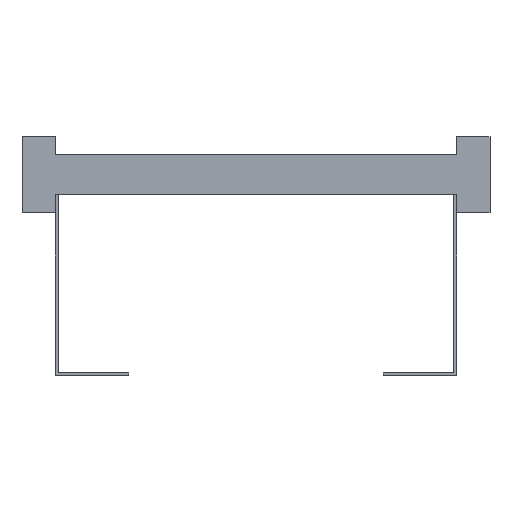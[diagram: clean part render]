
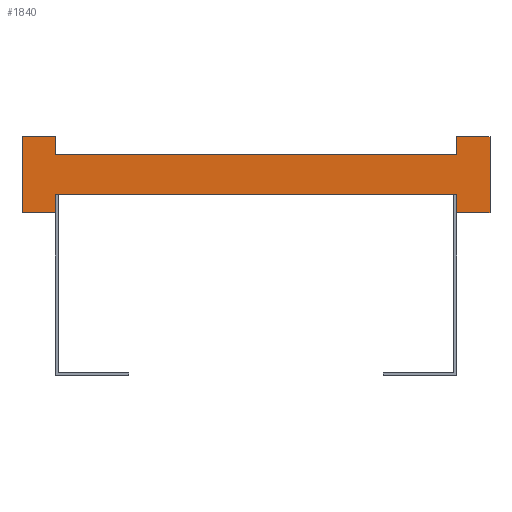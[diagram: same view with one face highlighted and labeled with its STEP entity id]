
A CAD part, front view. The second image highlights one B-rep face of the part: STEP entity #1840.
In plain terms, the highlighted planar face has unit normal (0, -1, 0).
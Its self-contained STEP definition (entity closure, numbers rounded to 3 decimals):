
#113=DIRECTION('',(0.,0.,1.));
#114=VECTOR('',#113,13.5);
#115=CARTESIAN_POINT('',(150.,0.,-28.5));
#116=LINE('',#115,#114);
#117=DIRECTION('',(0.,0.,-1.));
#118=VECTOR('',#117,13.5);
#119=CARTESIAN_POINT('',(-150.,0.,-15.));
#120=LINE('',#119,#118);
#121=DIRECTION('',(-1.,0.,0.));
#122=VECTOR('',#121,25.);
#123=CARTESIAN_POINT('',(-150.,0.,-28.5));
#124=LINE('',#123,#122);
#125=DIRECTION('',(0.,0.,1.));
#126=VECTOR('',#125,57.);
#127=CARTESIAN_POINT('',(-175.,0.,-28.5));
#128=LINE('',#127,#126);
#129=DIRECTION('',(1.,0.,0.));
#130=VECTOR('',#129,25.);
#131=CARTESIAN_POINT('',(-175.,0.,28.5));
#132=LINE('',#131,#130);
#133=DIRECTION('',(0.,0.,-1.));
#134=VECTOR('',#133,13.5);
#135=CARTESIAN_POINT('',(-150.,0.,28.5));
#136=LINE('',#135,#134);
#137=DIRECTION('',(0.,0.,1.));
#138=VECTOR('',#137,13.5);
#139=CARTESIAN_POINT('',(150.,0.,15.));
#140=LINE('',#139,#138);
#141=DIRECTION('',(1.,0.,0.));
#142=VECTOR('',#141,25.);
#143=CARTESIAN_POINT('',(150.,0.,28.5));
#144=LINE('',#143,#142);
#145=DIRECTION('',(0.,0.,-1.));
#146=VECTOR('',#145,57.);
#147=CARTESIAN_POINT('',(175.,0.,28.5));
#148=LINE('',#147,#146);
#149=DIRECTION('',(-1.,0.,0.));
#150=VECTOR('',#149,25.);
#151=CARTESIAN_POINT('',(175.,0.,-28.5));
#152=LINE('',#151,#150);
#1377=DIRECTION('',(1.,0.,0.));
#1378=VECTOR('',#1377,300.);
#1379=CARTESIAN_POINT('',(-150.,0.,-15.));
#1380=LINE('',#1379,#1378);
#1389=DIRECTION('',(1.,0.,0.));
#1390=VECTOR('',#1389,300.);
#1391=CARTESIAN_POINT('',(-150.,0.,15.));
#1392=LINE('',#1391,#1390);
#1393=CARTESIAN_POINT('',(-175.,0.,28.5));
#1394=CARTESIAN_POINT('',(-150.,0.,28.5));
#1395=VERTEX_POINT('',#1393);
#1396=VERTEX_POINT('',#1394);
#1397=CARTESIAN_POINT('',(-150.,0.,-28.5));
#1398=CARTESIAN_POINT('',(-175.,0.,-28.5));
#1399=VERTEX_POINT('',#1397);
#1400=VERTEX_POINT('',#1398);
#1401=CARTESIAN_POINT('',(175.,0.,28.5));
#1402=CARTESIAN_POINT('',(175.,0.,-28.5));
#1403=VERTEX_POINT('',#1401);
#1404=VERTEX_POINT('',#1402);
#1405=CARTESIAN_POINT('',(150.,0.,-28.5));
#1406=VERTEX_POINT('',#1405);
#1407=CARTESIAN_POINT('',(150.,0.,28.5));
#1408=VERTEX_POINT('',#1407);
#1425=CARTESIAN_POINT('',(-150.,0.,-15.));
#1427=VERTEX_POINT('',#1425);
#1429=CARTESIAN_POINT('',(-150.,0.,15.));
#1431=VERTEX_POINT('',#1429);
#1433=CARTESIAN_POINT('',(150.,0.,-15.));
#1435=VERTEX_POINT('',#1433);
#1437=CARTESIAN_POINT('',(150.,0.,15.));
#1439=VERTEX_POINT('',#1437);
#1809=CARTESIAN_POINT('',(0.,0.,0.));
#1810=DIRECTION('',(0.,1.,0.));
#1811=DIRECTION('',(1.,0.,0.));
#1812=AXIS2_PLACEMENT_3D('',#1809,#1810,#1811);
#1813=PLANE('',#1812);
#1815=ORIENTED_EDGE('',*,*,#1814,.T.);
#1817=ORIENTED_EDGE('',*,*,#1816,.F.);
#1819=ORIENTED_EDGE('',*,*,#1818,.T.);
#1821=ORIENTED_EDGE('',*,*,#1820,.T.);
#1823=ORIENTED_EDGE('',*,*,#1822,.T.);
#1825=ORIENTED_EDGE('',*,*,#1824,.T.);
#1827=ORIENTED_EDGE('',*,*,#1826,.T.);
#1829=ORIENTED_EDGE('',*,*,#1828,.T.);
#1831=ORIENTED_EDGE('',*,*,#1830,.T.);
#1833=ORIENTED_EDGE('',*,*,#1832,.T.);
#1835=ORIENTED_EDGE('',*,*,#1834,.T.);
#1837=ORIENTED_EDGE('',*,*,#1836,.T.);
#1838=EDGE_LOOP('',(#1815,#1817,#1819,#1821,#1823,#1825,#1827,#1829,#1831,#1833,
#1835,#1837));
#1839=FACE_OUTER_BOUND('',#1838,.F.);
#1814=EDGE_CURVE('',#1406,#1435,#116,.T.);
#1816=EDGE_CURVE('',#1427,#1435,#1380,.T.);
#1818=EDGE_CURVE('',#1427,#1399,#120,.T.);
#1820=EDGE_CURVE('',#1399,#1400,#124,.T.);
#1822=EDGE_CURVE('',#1400,#1395,#128,.T.);
#1824=EDGE_CURVE('',#1395,#1396,#132,.T.);
#1826=EDGE_CURVE('',#1396,#1431,#136,.T.);
#1828=EDGE_CURVE('',#1431,#1439,#1392,.T.);
#1830=EDGE_CURVE('',#1439,#1408,#140,.T.);
#1832=EDGE_CURVE('',#1408,#1403,#144,.T.);
#1834=EDGE_CURVE('',#1403,#1404,#148,.T.);
#1836=EDGE_CURVE('',#1404,#1406,#152,.T.);
#1840=ADVANCED_FACE('',(#1839),#1813,.F.);
